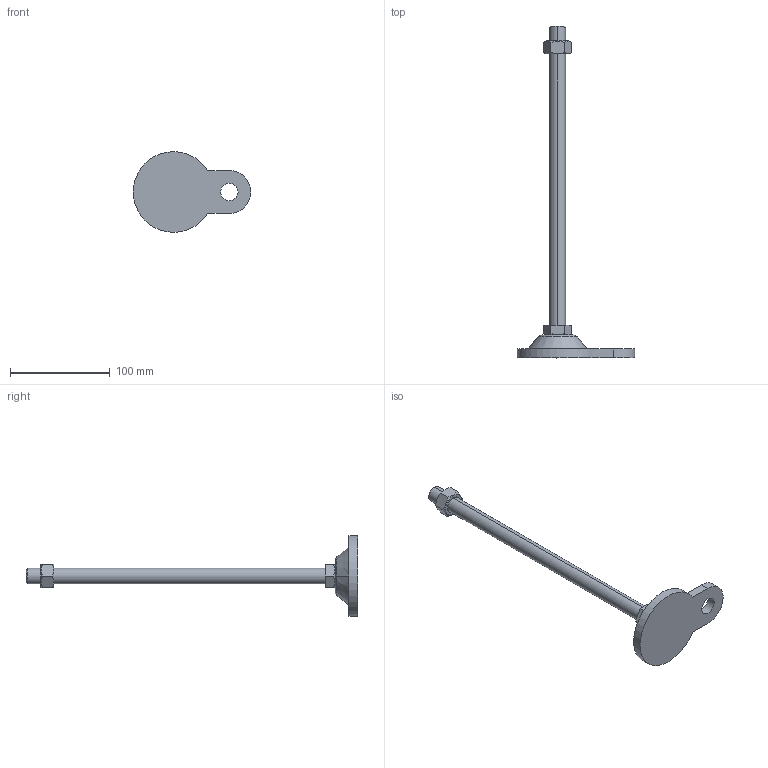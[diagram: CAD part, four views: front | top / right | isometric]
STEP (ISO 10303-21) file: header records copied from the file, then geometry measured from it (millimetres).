
FILE_DESCRIPTION (( 'STEP AP214' ), '1' );
FILE_NAME ('ARB81-M16-300.step', '2021-01-07T07:17:42', ( '' ), ( '' ), 'SwSTEP 2.0', 'SolidWorks 2019', '' );
FILE_SCHEMA (( 'AUTOMOTIVE_DESIGN' ));
Length unit declared in the file: millimetre
Products named in the file (1): ARB81-M16-300
Bounding box: 118 x 333 x 80.98 mm (x, y, z)
Volume: 151673.5 mm3; surface area: 36151.4 mm2
Topology: 3 solids, 3 shells, 46 faces, 100 edges, 62 vertices
Faces by surface type: plane 22, cone 14, cylinder 8, torus 2
Entity records: 1470 total; most frequent: CARTESIAN_POINT 407, DIRECTION 212, ORIENTED_EDGE 200, EDGE_CURVE 100, AXIS2_PLACEMENT_3D 83, VERTEX_POINT 62, EDGE_LOOP 52, VECTOR 46
